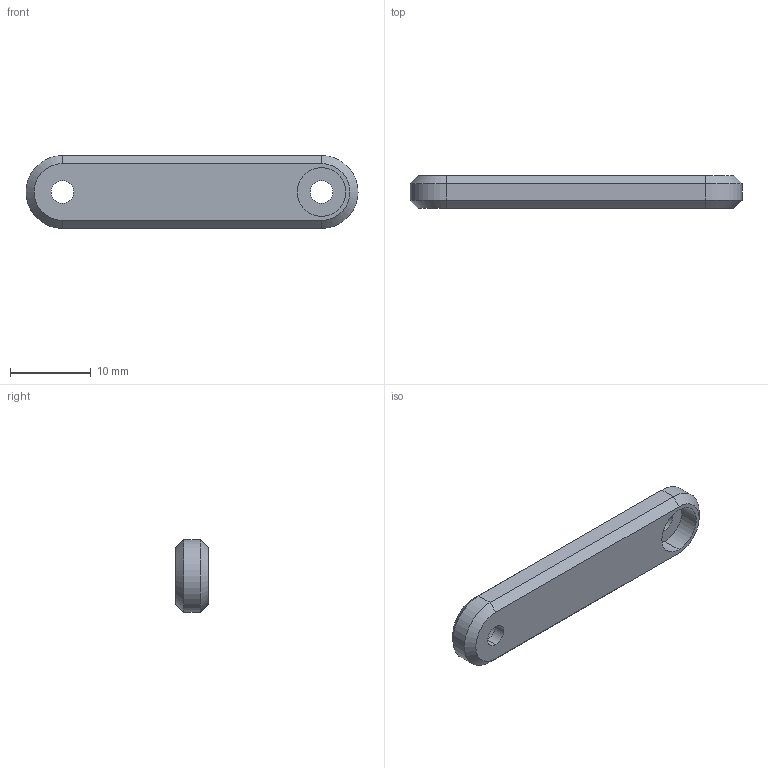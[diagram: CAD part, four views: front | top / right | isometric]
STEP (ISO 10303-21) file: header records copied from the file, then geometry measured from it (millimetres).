
FILE_DESCRIPTION(('Open CASCADE Model'),'2;1');
FILE_NAME('rotating-link.step','2026-11-14T14:31:50',('Author'),( 'Open CASCADE'),'Open CASCADE STEP processor 8.0','Open CASCADE 8.0' ,'Unknown');
FILE_SCHEMA(('AP242_MANAGED_MODEL_BASED_3D_ENGINEERING_MIM_LF {1 0 10303 442 1 1 4 }' ));
Length unit declared in the file: millimetre
Products named in the file (1): Rotating Link
Bounding box: 41 x 4 x 9 mm (x, y, z)
Volume: 1156.4 mm3; surface area: 1057.6 mm2
Topology: 1 solids, 1 shells, 24 faces, 52 edges, 32 vertices
Faces by surface type: cylinder 10, plane 10, cone 4
Entity records: 1374 total; most frequent: CARTESIAN_POINT 261, DIRECTION 222, LINE 112, VECTOR 112, ORIENTED_EDGE 104, PCURVE 104, DEFINITIONAL_REPRESENTATION 104, EDGE_CURVE 52
